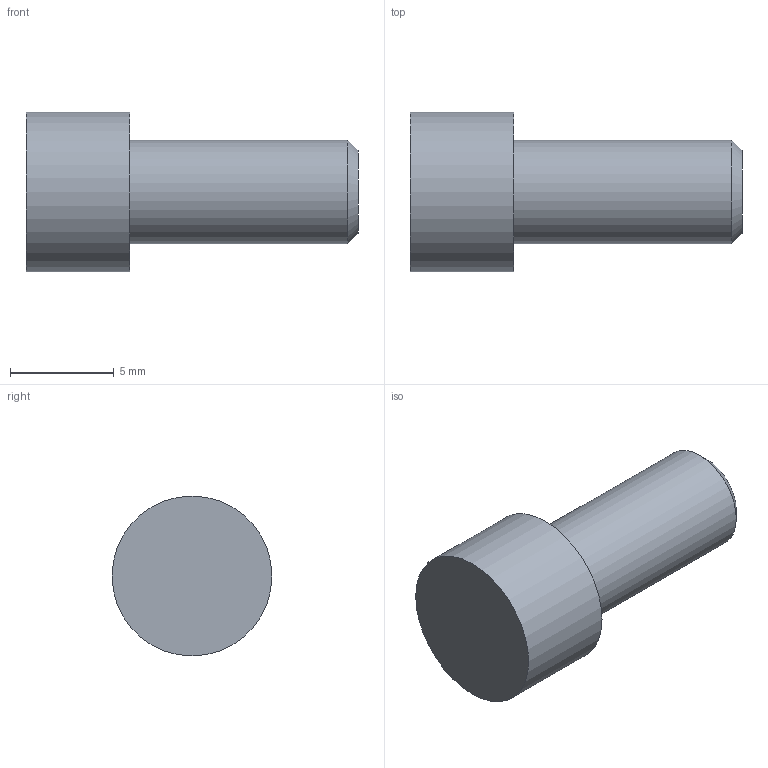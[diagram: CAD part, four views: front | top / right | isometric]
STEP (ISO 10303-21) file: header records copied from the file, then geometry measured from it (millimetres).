
FILE_DESCRIPTION(/* description */ (''),/* implementation_level */ '2;1');
FILE_NAME(/* name */ 'Schraube Cabineo X 8.stp',/* time_stamp */ '2023-11-20T13:50:35+01:00',/* author */ ('simond'),/* organization */ (''),/* preprocessor_version */ 'ST-DEVELOPER v19.2',/* originating_system */ 'Autodesk Inventor 2023',/* authorisation */ '');
FILE_SCHEMA (('AUTOMOTIVE_DESIGN { 1 0 10303 214 3 1 1 }'));
Length unit declared in the file: millimetre
Products named in the file (1): Schraube Cabineo X 8
Bounding box: 16 x 7.7 x 7.7 mm (x, y, z)
Volume: 447 mm3; surface area: 381.9 mm2
Topology: 1 solids, 1 shells, 6 faces, 9 edges, 6 vertices
Faces by surface type: plane 3, cylinder 2, cone 1
Full cylindrical faces by diameter (mm): 5 x1, 7.7 x1
Entity records: 182 total; most frequent: DIRECTION 29, CARTESIAN_POINT 22, ORIENTED_EDGE 18, AXIS2_PLACEMENT_3D 13, EDGE_CURVE 9, EDGE_LOOP 7, FACE_OUTER_BOUND 6, CIRCLE 6
